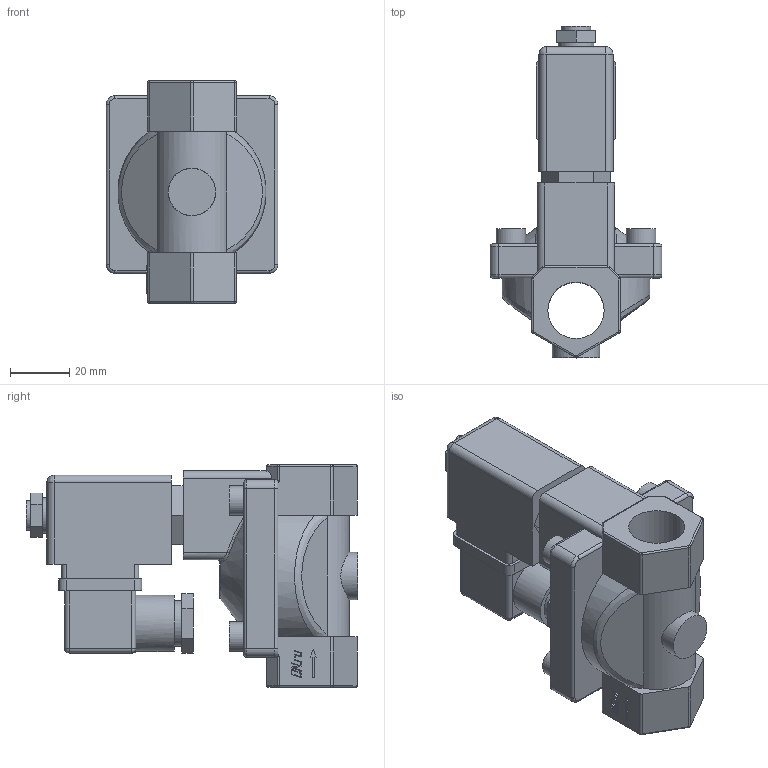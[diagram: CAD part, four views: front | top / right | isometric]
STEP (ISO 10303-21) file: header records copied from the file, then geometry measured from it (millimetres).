
FILE_DESCRIPTION(('STEP AP242'), '1');
FILE_NAME('3', '', ('UNSPECIFIED'), ('UNSPECIFIED'), 'C3D Converter', 'C3D Toolkit', '');
FILE_SCHEMA(('AP242_MANAGED_MODEL_BASED_3D_ENGINEERING_MIM_LF { 1 0 10303 442 1 1 4 }'));
Length unit declared in the file: millimetre
Products named in the file (1): VS400-ET-NC-220VAC 3-4
Bounding box: 58 x 112 x 75 mm (x, y, z)
Volume: 153963.6 mm3; surface area: 31866.5 mm2
Topology: 1 solids, 1 shells, 318 faces, 802 edges, 501 vertices
Faces by surface type: plane 149, cylinder 83, extrusion 40, torus 23, bspline 16, sphere 6, cone 1
Full cylindrical faces by diameter (mm): 10 x5, 12 x1, 15.5 x1, 16 x1, 19 x2
Entity records: 10744 total; most frequent: CARTESIAN_POINT 3311, ORIENTED_EDGE 1564, DIRECTION 1396, EDGE_CURVE 782, VECTOR 504, VERTEX_POINT 501, LINE 464, AXIS2_PLACEMENT_3D 446
